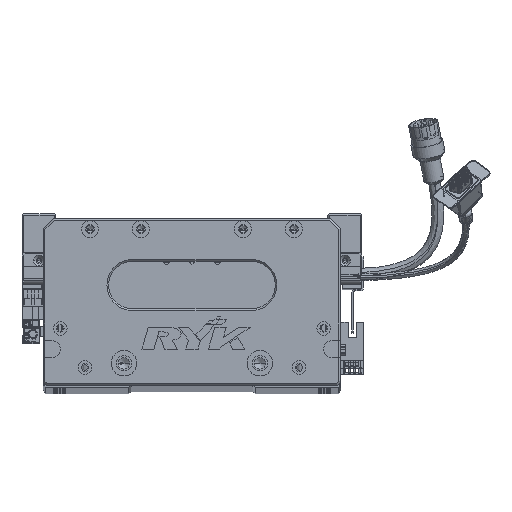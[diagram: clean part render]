
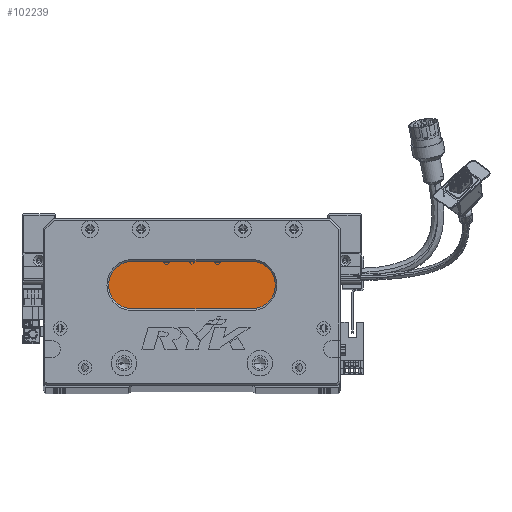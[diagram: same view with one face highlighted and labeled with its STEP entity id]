
A CAD part, top view. The second image highlights one B-rep face of the part: STEP entity #102239.
In plain terms, the highlighted planar face has unit normal (0, 0, 1) as drawn and (0, 0, -1) by its records, which use the part's own axes.
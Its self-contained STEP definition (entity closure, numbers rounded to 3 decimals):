
#607 = CIRCLE ( 'NONE', #14838, 14. ) ;
#10368 = CARTESIAN_POINT ( 'NONE',  ( 122.5, 73., 18. ) ) ;
#13399 = CARTESIAN_POINT ( 'NONE',  ( 52.5, 59., 18. ) ) ;
#13775 = VECTOR ( 'NONE', #23685, 1000. ) ;
#14838 = AXIS2_PLACEMENT_3D ( 'NONE', #115242, #32297, #107054 ) ;
#15580 = PLANE ( 'NONE',  #20592 ) ;
#16062 = ORIENTED_EDGE ( 'NONE', *, *, #28361, .T. ) ;
#17052 = FACE_OUTER_BOUND ( 'NONE', #34894, .T. ) ;
#17425 = CARTESIAN_POINT ( 'NONE',  ( 122.5, 59., 18. ) ) ;
#18651 = VERTEX_POINT ( 'NONE', #65962 ) ;
#19487 = EDGE_CURVE ( 'NONE', #59348, #18651, #607, .T. ) ;
#20056 = CARTESIAN_POINT ( 'NONE',  ( 52.5, 73., 18. ) ) ;
#20592 = AXIS2_PLACEMENT_3D ( 'NONE', #23680, #118030, #107452 ) ;
#21270 = AXIS2_PLACEMENT_3D ( 'NONE', #13399, #116239, #31670 ) ;
#22814 = CARTESIAN_POINT ( 'NONE',  ( 122.5, 45., 18. ) ) ;
#23680 = CARTESIAN_POINT ( 'NONE',  ( 122.5, 59., 18. ) ) ;
#23685 = DIRECTION ( 'NONE',  ( 1., 0., 0. ) ) ;
#26592 = CIRCLE ( 'NONE', #21270, 14. ) ;
#27953 = DIRECTION ( 'NONE',  ( -1., 0., 0. ) ) ;
#28361 = EDGE_CURVE ( 'NONE', #31519, #59348, #50660, .T. ) ;
#31519 = VERTEX_POINT ( 'NONE', #22814 ) ;
#31670 = DIRECTION ( 'NONE',  ( -1., 0., 0. ) ) ;
#32297 = DIRECTION ( 'NONE',  ( 0., 0., -1. ) ) ;
#34843 = ORIENTED_EDGE ( 'NONE', *, *, #19487, .T. ) ;
#34894 = EDGE_LOOP ( 'NONE', ( #81018, #16062, #34843, #43768, #99692 ) ) ;
#43188 = CARTESIAN_POINT ( 'NONE',  ( 122.5, 73., 18. ) ) ;
#43768 = ORIENTED_EDGE ( 'NONE', *, *, #68119, .T. ) ;
#46279 = CARTESIAN_POINT ( 'NONE',  ( 122.5, 45., 18. ) ) ;
#49799 = CARTESIAN_POINT ( 'NONE',  ( 52.5, 45., 18. ) ) ;
#50660 = LINE ( 'NONE', #46279, #95711 ) ;
#52781 = VERTEX_POINT ( 'NONE', #20056 ) ;
#59348 = VERTEX_POINT ( 'NONE', #49799 ) ;
#65962 = CARTESIAN_POINT ( 'NONE',  ( 38.5, 59., 18. ) ) ;
#68119 = EDGE_CURVE ( 'NONE', #18651, #52781, #26592, .T. ) ;
#81018 = ORIENTED_EDGE ( 'NONE', *, *, #95394, .T. ) ;
#83622 = DIRECTION ( 'NONE',  ( 0., 0., -1. ) ) ;
#88632 = VERTEX_POINT ( 'NONE', #10368 ) ;
#89723 = CIRCLE ( 'NONE', #112636, 14. ) ;
#95394 = EDGE_CURVE ( 'NONE', #88632, #31519, #89723, .T. ) ;
#95711 = VECTOR ( 'NONE', #27953, 1000. ) ;
#96397 = EDGE_CURVE ( 'NONE', #52781, #88632, #114086, .T. ) ;
#99692 = ORIENTED_EDGE ( 'NONE', *, *, #96397, .T. ) ;
#102239 = ADVANCED_FACE ( 'NONE', ( #17052 ), #15580, .T. ) ;
#107054 = DIRECTION ( 'NONE',  ( -1., 0., 0. ) ) ;
#107452 = DIRECTION ( 'NONE',  ( -1., 0., 0. ) ) ;
#112636 = AXIS2_PLACEMENT_3D ( 'NONE', #17425, #83622, #119473 ) ;
#114086 = LINE ( 'NONE', #43188, #13775 ) ;
#115242 = CARTESIAN_POINT ( 'NONE',  ( 52.5, 59., 18. ) ) ;
#116239 = DIRECTION ( 'NONE',  ( 0., 0., -1. ) ) ;
#118030 = DIRECTION ( 'NONE',  ( 0., 0., -1. ) ) ;
#119473 = DIRECTION ( 'NONE',  ( -1., 0., 0. ) ) ;
